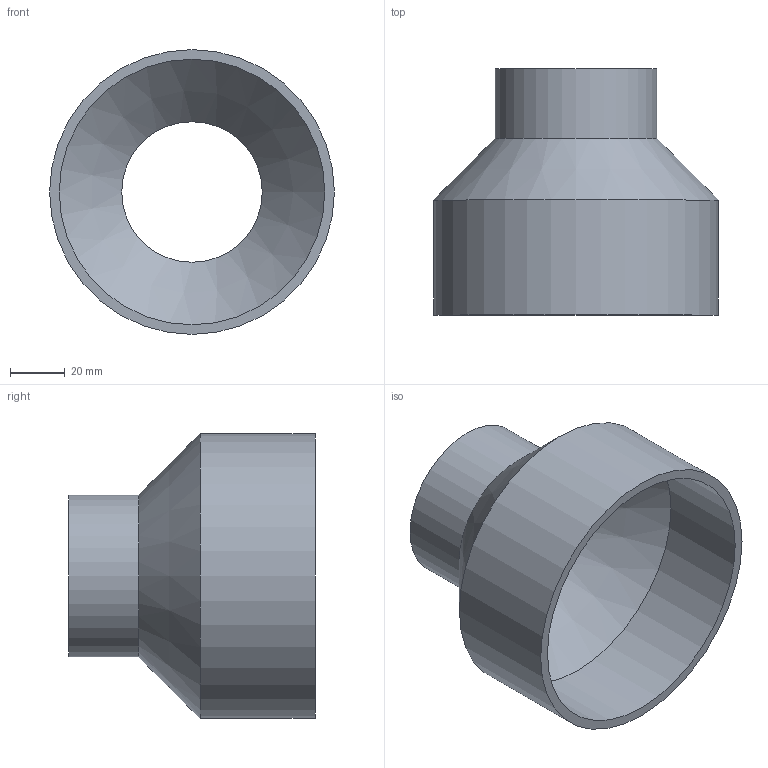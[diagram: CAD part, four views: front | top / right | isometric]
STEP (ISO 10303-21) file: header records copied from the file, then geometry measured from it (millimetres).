
FILE_DESCRIPTION(/* description */ (''),/* implementation_level */ '2;1');
FILE_NAME(/* name */ 'P:\Adapter\Schweißstutzen und Schweißadapter\A 104a_54i.stp',/* time_stamp */ '2019-04-01T13:21:01+02:00',/* author */ ('neufeld'),/* organization */ (''),/* preprocessor_version */ 'ST-DEVELOPER v17',/* originating_system */ 'Autodesk Inventor 2019',/* authorisation */ '');
FILE_SCHEMA (('AUTOMOTIVE_DESIGN { 1 0 10303 214 3 1 1 }'));
Length unit declared in the file: millimetre
Products named in the file (1): A 104a_54i
Bounding box: 104 x 90 x 104 mm (x, y, z)
Volume: 121606 mm3; surface area: 51788.5 mm2
Topology: 1 solids, 1 shells, 10 faces, 27 edges, 20 vertices
Faces by surface type: cylinder 5, plane 3, cone 2
Full cylindrical faces by diameter (mm): 51.3 x1, 54.3 x1, 59 x1, 97 x1, 104 x1
Entity records: 382 total; most frequent: DIRECTION 69, CARTESIAN_POINT 58, ORIENTED_EDGE 54, AXIS2_PLACEMENT_3D 31, EDGE_CURVE 27, CIRCLE 20, VERTEX_POINT 20, EDGE_LOOP 13
